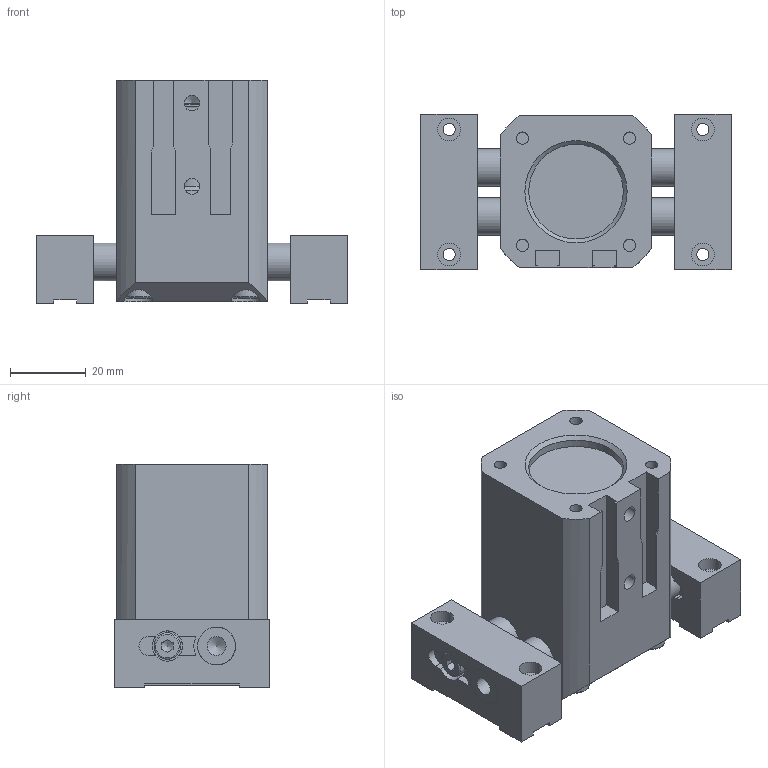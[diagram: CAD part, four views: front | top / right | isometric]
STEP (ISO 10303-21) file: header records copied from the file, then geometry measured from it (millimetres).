
FILE_DESCRIPTION((''),'2;1');
FILE_NAME('T:\CAD\Standard\Daten\3D-Datenbank\GP\GP050\step-Daten\G-GP050-l2-O+UB open.stp','2012-12-07T08:14:33',('dirk'),(''),'Autodesk Inventor 2011','Autodesk Inventor 2011','');
FILE_SCHEMA(('AUTOMOTIVE_DESIGN { 1 0 10303 214 1 1 1 1 }'));
Length unit declared in the file: millimetre
Products named in the file (3): Baugruppe1; G-GP050-l2-GÖ- Gehäuse; G-GP050-l2-GÖ-Bolzen2
Assembly tree (3 placements, depth 2):
  Baugruppe1
    G-GP050-l2-GÖ- Gehäuse
    G-GP050-l2-GÖ-Bolzen2  x2
Bounding box: 82 x 41 x 59 mm (x, y, z)
Volume: 94974.8 mm3; surface area: 43526.9 mm2
Topology: 3 solids, 21 shells, 401 faces, 984 edges, 640 vertices
Faces by surface type: plane 226, cylinder 115, cone 34, torus 26
Full cylindrical faces by diameter (mm): 2.459 x2, 3.242 x10, 4 x6, 4.134 x2, 4.3 x4, 4.5 x2, 4.917 x1, 5 x2, 6 x5, 6.4 x1, 7 x6, 8 x8, 10 x8, 12 x8, 14 x1, 15 x2, 17 x2, 20 x1, 23 x2, 23.6 x2, 25 x1, 27 x1, 27.1 x2, 30 x5
Entity records: 9295 total; most frequent: CARTESIAN_POINT 1994, DIRECTION 1444, ORIENTED_EDGE 1202, EDGE_CURVE 601, AXIS2_PLACEMENT_3D 579, EDGE_LOOP 524, VERTEX_POINT 449, STYLED_ITEM 328
